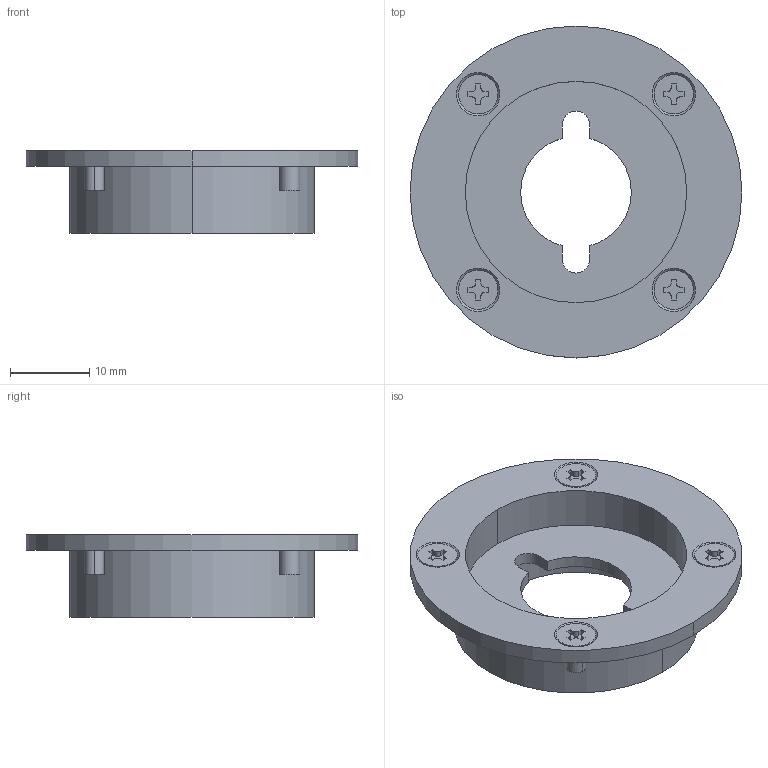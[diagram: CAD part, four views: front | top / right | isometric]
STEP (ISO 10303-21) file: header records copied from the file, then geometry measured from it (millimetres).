
FILE_DESCRIPTION (( 'STEP AP203' ), '1' );
FILE_NAME ('QCFC0639-B-SUS.STEP', '2024-03-06T02:11:40', ( '' ), ( '' ), 'SwSTEP 2.0', 'SolidWorks 2022', '' );
FILE_SCHEMA (( 'CONFIG_CONTROL_DESIGN' ));
Length unit declared in the file: millimetre
Products named in the file (1): QCFC0639-B-SUS
Bounding box: 42 x 42 x 10.5 mm (x, y, z)
Volume: 4295 mm3; surface area: 4504.5 mm2
Topology: 1 solids, 1 shells, 138 faces, 347 edges, 226 vertices
Faces by surface type: plane 69, cylinder 53, cone 16
Entity records: 4226 total; most frequent: DIRECTION 747, CARTESIAN_POINT 712, ORIENTED_EDGE 694, EDGE_CURVE 347, AXIS2_PLACEMENT_3D 261, VERTEX_POINT 226, LINE 225, VECTOR 225
